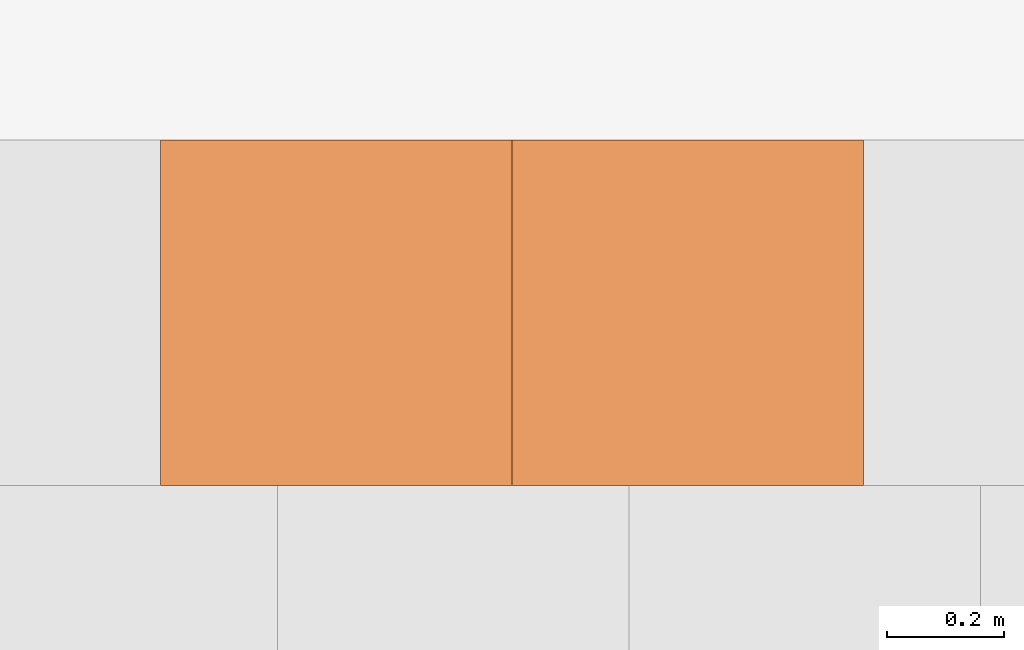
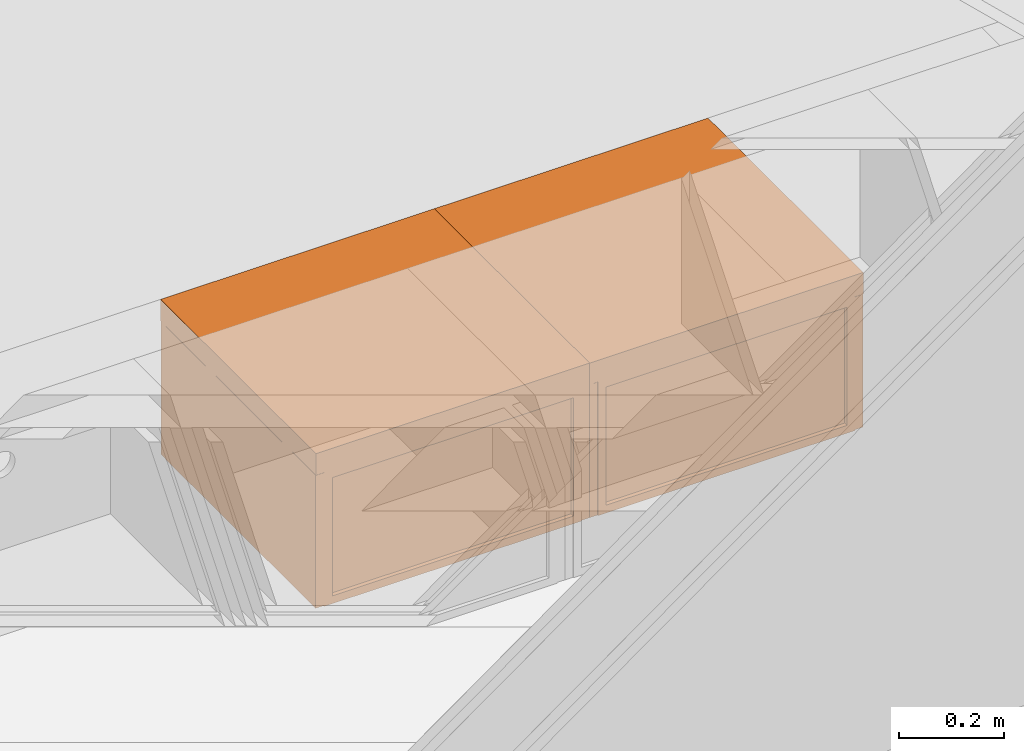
# One storey, part 139 of 165: 2 proxies.
"""IFC2X3 building model written with IfcOpenShell, lengths in millimetres."""

from ifc_helpers import new_model, entity, si_unit, converted_unit, derived_unit, money_unit, direction, frame, origin_with_axes, place, context, subcontext, project, spatial, faceted_brep, source, transform, mapped, type_object, type_shapes, element, save


model = new_model("IFC2X3")

# Units and contexts
model_context = context("Model", 3, precision=0.01, world=origin_with_axes(), true_north=direction((0.0, 1.0)))
body_context = subcontext(model_context, "Body", "Model", "MODEL_VIEW")
ifc_project = project(units=[si_unit("LENGTHUNIT", "METRE", prefix="MILLI"), si_unit("AREAUNIT", "SQUARE_METRE"), si_unit("VOLUMEUNIT", "CUBIC_METRE"), converted_unit("PLANEANGLEUNIT", "DEGREE", entity("IfcPlaneAngleMeasure", 0.0174532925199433), si_unit("PLANEANGLEUNIT", "RADIAN"), dimensions=[0, 0, 0, 0, 0, 0, 0]), money_unit("EUR"), converted_unit("TIMEUNIT", "Year", entity("IfcTimeMeasure", 31556926.0), si_unit("TIMEUNIT", "SECOND"), dimensions=[0, 0, 1, 0, 0, 0, 0]), si_unit("MASSUNIT", "GRAM", prefix="KILO"), si_unit("THERMODYNAMICTEMPERATUREUNIT", "DEGREE_CELSIUS"), si_unit("LUMINOUSINTENSITYUNIT", "LUMEN"), si_unit("ENERGYUNIT", "JOULE", prefix="MEGA"), derived_unit("THERMALCONDUCTANCEUNIT", [(si_unit("POWERUNIT", "WATT"), 1), (si_unit("LENGTHUNIT", "METRE"), -1), (si_unit("THERMODYNAMICTEMPERATUREUNIT", "KELVIN"), -1)]), derived_unit("SPECIFICHEATCAPACITYUNIT", [(si_unit("ENERGYUNIT", "JOULE"), 1), (si_unit("MASSUNIT", "GRAM", prefix="KILO"), -1), (si_unit("THERMODYNAMICTEMPERATUREUNIT", "KELVIN"), -1)]), derived_unit("MASSDENSITYUNIT", [(si_unit("MASSUNIT", "GRAM", prefix="KILO"), 1), (si_unit("VOLUMEUNIT", "CUBIC_METRE"), -1)])], contexts=[model_context])

# Site, building, storey
site_placement = place(None, origin_with_axes())
site = spatial("IfcSite", under=ifc_project, at=site_placement, Name="Site", CompositionType="ELEMENT")
building_placement = place(site_placement, origin_with_axes())
building = spatial("IfcBuilding", under=site, at=building_placement, Name="Naam gebouw", CompositionType="ELEMENT")
storey_placement = place(building_placement, origin_with_axes())
storey = spatial("IfcBuildingStorey", under=building, at=storey_placement, Name="Begane grond", CompositionType="ELEMENT", Elevation=0.0)

# Proxies
building_element_proxy_type = type_object("IfcBuildingElementProxyType", Name="Onderkast recht 26", PredefinedType="NOTDEFINED")
shared_shape_1 = source(origin_with_axes(), body_context, "Body", "Brep", [
    faceted_brep([(0.0, -590.0, 310.0), (600.0, -590.0, 310.0), (600.0, -590.0, 360.0), (0.0, -590.0, 360.0), (0.0, 0.0, 310.0), (600.0, 0.0, 310.0), (600.0, 0.0, 360.0), (0.0, 0.0, 360.0)], [[[0, 1, 2, 3]], [[0, 4, 5, 1]], [[1, 5, 6, 2]], [[3, 2, 6, 7]], [[4, 0, 3, 7]], [[5, 4, 7, 6]]]),
    faceted_brep([(558.9999999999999, -572.0, 23.0), (40.99999999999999, -572.0, 23.0), (40.99999999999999, -18.00000000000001, 23.0), (558.9999999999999, -18.00000000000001, 23.0), (558.9999999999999, -572.0, 33.0), (40.99999999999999, -572.0, 33.0), (40.99999999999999, -18.00000000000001, 33.0), (558.9999999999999, -18.00000000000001, 33.0)], [[[0, 1, 2, 3]], [[1, 0, 4, 5]], [[2, 1, 5, 6]], [[3, 2, 6, 7]], [[0, 3, 7, 4]], [[5, 4, 7, 6]]]),
    faceted_brep([(61.0, -572.0, 33.0), (40.99999999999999, -572.0, 33.0), (40.99999999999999, -18.00000000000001, 33.0), (61.0, -18.00000000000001, 33.0), (61.0, -572.0, 286.9999999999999), (40.99999999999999, -572.0, 286.9999999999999), (40.99999999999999, -18.00000000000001, 286.9999999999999), (61.0, -18.00000000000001, 286.9999999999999)], [[[0, 1, 2, 3]], [[1, 0, 4, 5]], [[2, 1, 5, 6]], [[3, 2, 6, 7]], [[0, 3, 7, 4]], [[5, 4, 7, 6]]]),
    faceted_brep([(558.9999999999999, -572.0, 33.0), (538.9999999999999, -572.0, 33.0), (538.9999999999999, -18.00000000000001, 33.0), (558.9999999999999, -18.00000000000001, 33.0), (558.9999999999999, -572.0, 286.9999999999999), (538.9999999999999, -572.0, 286.9999999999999), (538.9999999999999, -18.00000000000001, 286.9999999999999), (558.9999999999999, -18.00000000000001, 286.9999999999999)], [[[0, 1, 2, 3]], [[1, 0, 4, 5]], [[2, 1, 5, 6]], [[3, 2, 6, 7]], [[0, 3, 7, 4]], [[5, 4, 7, 6]]]),
    faceted_brep([(538.9999999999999, -33.00000000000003, 33.0), (61.0, -33.00000000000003, 33.0), (61.0, -23.00000000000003, 33.0), (538.9999999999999, -23.00000000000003, 33.0), (538.9999999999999, -33.00000000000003, 286.9999999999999), (61.0, -33.00000000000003, 286.9999999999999), (61.0, -23.00000000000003, 286.9999999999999), (538.9999999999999, -23.00000000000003, 286.9999999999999)], [[[0, 1, 2, 3]], [[1, 0, 4, 5]], [[2, 1, 5, 6]], [[3, 2, 6, 7]], [[0, 3, 7, 4]], [[5, 4, 7, 6]]]),
    faceted_brep([(599.0, -590.0, 1.000000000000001), (599.0, -590.0, 309.0), (1.000000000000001, -590.0, 309.0), (1.000000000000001, -590.0, 1.000000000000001), (328.190778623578, -590.0, 240.26060429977), (329.5442325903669, -590.0, 235.2094453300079), (330.0000000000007, -590.0, 230.0), (329.5442325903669, -590.0, 224.7905546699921), (328.190778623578, -590.0, 219.7393957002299), (325.9807621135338, -590.0, 215.0), (322.9813332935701, -590.0, 210.7163717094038), (319.2836282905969, -590.0, 207.0186667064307), (315.0000000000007, -590.0, 204.0192378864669), (310.2606042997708, -590.0, 201.8092213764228), (305.2094453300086, -590.0, 200.4557674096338), (300.0000000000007, -590.0, 200.0), (294.7905546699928, -590.0, 200.4557674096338), (289.7393957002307, -590.0, 201.8092213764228), (285.0000000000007, -590.0, 204.0192378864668), (280.7163717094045, -590.0, 207.0186667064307), (277.0186667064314, -590.0, 210.7163717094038), (274.0192378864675, -590.0, 215.0), (271.8092213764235, -590.0, 219.7393957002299), (270.4557674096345, -590.0, 224.7905546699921), (270.0000000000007, -590.0, 230.0), (270.4557674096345, -590.0, 235.2094453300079), (271.8092213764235, -590.0, 240.2606042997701), (274.0192378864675, -590.0, 245.0), (277.0186667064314, -590.0, 249.2836282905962), (280.7163717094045, -590.0, 252.9813332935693), (285.0000000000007, -590.0, 255.9807621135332), (289.7393957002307, -590.0, 258.1907786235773), (294.7905546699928, -590.0, 259.5442325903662), (300.0000000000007, -590.0, 260.0), (305.2094453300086, -590.0, 259.5442325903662), (310.2606042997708, -590.0, 258.1907786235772), (315.0000000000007, -590.0, 255.9807621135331), (319.2836282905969, -590.0, 252.9813332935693), (322.9813332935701, -590.0, 249.2836282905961), (325.9807621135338, -590.0, 244.9999999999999), (599.0, -572.0, 309.0), (599.0, -572.0, 1.000000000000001), (1.000000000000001, -572.0, 309.0), (1.000000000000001, -572.0, 1.000000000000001), (328.190778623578, -572.0, 240.26060429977), (329.5442325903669, -572.0, 235.2094453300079), (330.0000000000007, -572.0, 230.0), (329.5442325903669, -572.0, 224.7905546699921), (328.190778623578, -572.0, 219.7393957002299), (325.9807621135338, -572.0, 215.0), (322.9813332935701, -572.0, 210.7163717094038), (319.2836282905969, -572.0, 207.0186667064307), (315.0000000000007, -572.0, 204.0192378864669), (310.2606042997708, -572.0, 201.8092213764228), (305.2094453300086, -572.0, 200.4557674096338), (300.0000000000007, -572.0, 200.0), (294.7905546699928, -572.0, 200.4557674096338), (289.7393957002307, -572.0, 201.8092213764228), (285.0000000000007, -572.0, 204.0192378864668), (280.7163717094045, -572.0, 207.0186667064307), (277.0186667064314, -572.0, 210.7163717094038), (274.0192378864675, -572.0, 215.0), (271.8092213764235, -572.0, 219.7393957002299), (270.4557674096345, -572.0, 224.7905546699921), (270.0000000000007, -572.0, 230.0), (270.4557674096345, -572.0, 235.2094453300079), (271.8092213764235, -572.0, 240.2606042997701), (274.0192378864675, -572.0, 245.0), (277.0186667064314, -572.0, 249.2836282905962), (280.7163717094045, -572.0, 252.9813332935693), (285.0000000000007, -572.0, 255.9807621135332), (289.7393957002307, -572.0, 258.1907786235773), (294.7905546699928, -572.0, 259.5442325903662), (300.0000000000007, -572.0, 260.0), (305.2094453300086, -572.0, 259.5442325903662), (310.2606042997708, -572.0, 258.1907786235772), (315.0000000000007, -572.0, 255.9807621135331), (319.2836282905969, -572.0, 252.9813332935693), (322.9813332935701, -572.0, 249.2836282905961), (325.9807621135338, -572.0, 244.9999999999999)], [[[0, 1, 2, 3], [4, 5, 6, 7, 8, 9, 10, 11, 12, 13, 14, 15, 16, 17, 18, 19, 20, 21, 22, 23, 24, 25, 26, 27, 28, 29, 30, 31, 32, 33, 34, 35, 36, 37, 38, 39]], [[40, 1, 0, 41]], [[42, 2, 1, 40]], [[43, 3, 2, 42]], [[41, 0, 3, 43]], [[44, 45, 5, 4]], [[45, 46, 6, 5]], [[46, 47, 7, 6]], [[47, 48, 8, 7]], [[48, 49, 9, 8]], [[49, 50, 10, 9]], [[50, 51, 11, 10]], [[51, 52, 12, 11]], [[52, 53, 13, 12]], [[53, 54, 14, 13]], [[54, 55, 15, 14]], [[55, 56, 16, 15]], [[56, 57, 17, 16]], [[57, 58, 18, 17]], [[58, 59, 19, 18]], [[59, 60, 20, 19]], [[60, 61, 21, 20]], [[61, 62, 22, 21]], [[62, 63, 23, 22]], [[63, 64, 24, 23]], [[64, 65, 25, 24]], [[65, 66, 26, 25]], [[66, 67, 27, 26]], [[67, 68, 28, 27]], [[68, 69, 29, 28]], [[69, 70, 30, 29]], [[70, 71, 31, 30]], [[71, 72, 32, 31]], [[72, 73, 33, 32]], [[73, 74, 34, 33]], [[74, 75, 35, 34]], [[75, 76, 36, 35]], [[76, 77, 37, 36]], [[77, 78, 38, 37]], [[78, 79, 39, 38]], [[79, 44, 4, 39]], [[42, 40, 41, 43], [48, 47, 46, 45, 44, 79, 78, 77, 76, 75, 74, 73, 72, 71, 70, 69, 68, 67, 66, 65, 64, 63, 62, 61, 60, 59, 58, 57, 56, 55, 54, 53, 52, 51, 50, 49]]]),
    faceted_brep([(18.0, -1.0, 1.0), (18.0, -571.0, 1.0), (0.0, -571.0, 1.000000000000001), (0.0, -1.0, 1.000000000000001), (18.00000000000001, -1.0, 309.0), (18.00000000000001, -571.0, 309.0), (0.0, -571.0, 309.0), (0.0, -1.0, 309.0)], [[[0, 1, 2, 3]], [[0, 4, 5, 1]], [[1, 5, 6, 2]], [[3, 2, 6, 7]], [[4, 0, 3, 7]], [[5, 4, 7, 6]]]),
    faceted_brep([(582.0, -571.0, 1.0), (582.0, -1.000000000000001, 1.0), (600.0, -1.000000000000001, 1.000000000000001), (600.0, -571.0, 1.000000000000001), (582.0, -571.0, 309.0), (582.0, -1.000000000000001, 309.0), (600.0, -1.000000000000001, 309.0), (600.0, -571.0, 309.0)], [[[0, 1, 2, 3]], [[0, 4, 5, 1]], [[1, 5, 6, 2]], [[3, 2, 6, 7]], [[4, 0, 3, 7]], [[5, 4, 7, 6]]]),
    faceted_brep([(36.0, -572.0, 0.0), (564.0, -572.0, 0.0), (564.0, -572.0, 18.0), (36.0, -572.0, 18.0), (36.0, 0.0, 0.0), (564.0, 0.0, 0.0), (564.0, 0.0, 18.0), (36.0, 0.0, 18.0)], [[[0, 1, 2, 3]], [[0, 4, 5, 1]], [[1, 5, 6, 2]], [[3, 2, 6, 7]], [[4, 0, 3, 7]], [[5, 4, 7, 6]]]),
    faceted_brep([(36.0, -572.0, 292.0), (36.0, -512.0, 292.0), (564.0, -512.0, 292.0), (564.0, -572.0, 292.0), (36.0, -572.0, 310.0), (36.0, -512.0, 310.0), (564.0, -512.0, 310.0), (564.0, -572.0, 310.0)], [[[0, 1, 2, 3]], [[0, 4, 5, 1]], [[1, 5, 6, 2]], [[3, 2, 6, 7]], [[4, 0, 3, 7]], [[5, 4, 7, 6]]]),
    faceted_brep([(564.0, 0.0, 292.0), (564.0, -60.0, 292.0), (36.0, -60.0, 292.0), (36.0, 0.0, 292.0), (564.0, 0.0, 310.0), (564.0, -60.0, 310.0), (36.0, -60.0, 310.0), (36.0, 0.0, 310.0)], [[[0, 1, 2, 3]], [[0, 4, 5, 1]], [[1, 5, 6, 2]], [[3, 2, 6, 7]], [[4, 0, 3, 7]], [[5, 4, 7, 6]]]),
    faceted_brep([(18.0, 0.0, 0.0), (18.0, -572.0, 0.0), (18.0, -572.0, 310.0), (18.0, 0.0, 310.0), (36.0, 0.0, 0.0), (36.0, -572.0, 0.0), (36.0, -572.0, 310.0), (36.0, 0.0, 310.0)], [[[0, 1, 2, 3]], [[0, 4, 5, 1]], [[1, 5, 6, 2]], [[3, 2, 6, 7]], [[4, 0, 3, 7]], [[5, 4, 7, 6]]]),
    faceted_brep([(582.0, -572.0, 0.0), (582.0, 0.0, 0.0), (582.0, 0.0, 310.0), (582.0, -572.0, 310.0), (564.0, -572.0, 0.0), (564.0, 0.0, 0.0), (564.0, 0.0, 310.0), (564.0, -572.0, 310.0)], [[[0, 1, 2, 3]], [[0, 4, 5, 1]], [[1, 5, 6, 2]], [[3, 2, 6, 7]], [[4, 0, 3, 7]], [[5, 4, 7, 6]]]),
    faceted_brep([(564.0, -9.0, 18.0), (36.00000000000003, -9.0, 18.0), (36.00000000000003, -9.0, 292.0000000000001), (564.0, -9.0, 292.0000000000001), (564.0, -18.0, 18.0), (36.00000000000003, -18.0, 18.0), (36.00000000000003, -18.0, 292.0000000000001), (564.0, -18.0, 292.0000000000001)], [[[0, 1, 2, 3]], [[0, 4, 5, 1]], [[1, 5, 6, 2]], [[3, 2, 6, 7]], [[4, 0, 3, 7]], [[5, 4, 7, 6]]]),
])
proxy_1_placement = place(storey_placement, frame((16400.00001687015, 6430.000292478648, 0.0), z_axis=(0.0, 0.0, 1.0), x_axis=(-1.0, 0.0, 0.0)))
element("IfcBuildingElementProxy", 1, at=proxy_1_placement, inside=storey, type_object=building_element_proxy_type, Name="_Leeg", context=body_context, shape_type="MappedRepresentation", body=[
    mapped(shared_shape_1, transform((0.0, 0.0, 0.0))),
])
shared_shape_2 = source(origin_with_axes(), body_context, "Body", "Brep", [
    faceted_brep([(0.0, -590.0, 310.0), (0.0, -590.0, 360.0), (-600.0, -590.0, 360.0), (-600.0, -590.0, 310.0), (0.0, 0.0, 310.0), (0.0, 0.0, 360.0), (-600.0, 0.0, 360.0), (-600.0, 0.0, 310.0)], [[[0, 1, 2, 3]], [[4, 5, 1, 0]], [[1, 5, 6, 2]], [[3, 2, 6, 7]], [[0, 3, 7, 4]], [[7, 6, 5, 4]]]),
    faceted_brep([(-558.9999999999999, -572.0, 23.0), (-558.9999999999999, -18.00000000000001, 23.0), (-40.99999999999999, -18.00000000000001, 23.0), (-40.99999999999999, -572.0, 23.0), (-558.9999999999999, -572.0, 33.0), (-558.9999999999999, -18.00000000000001, 33.0), (-40.99999999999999, -18.00000000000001, 33.0), (-40.99999999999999, -572.0, 33.0)], [[[0, 1, 2, 3]], [[0, 4, 5, 1]], [[1, 5, 6, 2]], [[2, 6, 7, 3]], [[3, 7, 4, 0]], [[7, 6, 5, 4]]]),
    faceted_brep([(-61.0, -572.0, 33.0), (-61.0, -18.00000000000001, 33.0), (-40.99999999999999, -18.00000000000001, 33.0), (-40.99999999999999, -572.0, 33.0), (-61.0, -572.0, 286.9999999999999), (-61.0, -18.00000000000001, 286.9999999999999), (-40.99999999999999, -18.00000000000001, 286.9999999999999), (-40.99999999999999, -572.0, 286.9999999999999)], [[[0, 1, 2, 3]], [[0, 4, 5, 1]], [[1, 5, 6, 2]], [[2, 6, 7, 3]], [[3, 7, 4, 0]], [[7, 6, 5, 4]]]),
    faceted_brep([(-558.9999999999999, -572.0, 33.0), (-558.9999999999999, -18.00000000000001, 33.0), (-538.9999999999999, -18.00000000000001, 33.0), (-538.9999999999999, -572.0, 33.0), (-558.9999999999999, -572.0, 286.9999999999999), (-558.9999999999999, -18.00000000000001, 286.9999999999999), (-538.9999999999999, -18.00000000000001, 286.9999999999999), (-538.9999999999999, -572.0, 286.9999999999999)], [[[0, 1, 2, 3]], [[0, 4, 5, 1]], [[1, 5, 6, 2]], [[2, 6, 7, 3]], [[3, 7, 4, 0]], [[7, 6, 5, 4]]]),
    faceted_brep([(-538.9999999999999, -33.00000000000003, 33.0), (-538.9999999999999, -23.00000000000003, 33.0), (-61.0, -23.00000000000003, 33.0), (-61.0, -33.00000000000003, 33.0), (-538.9999999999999, -33.00000000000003, 286.9999999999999), (-538.9999999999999, -23.00000000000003, 286.9999999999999), (-61.0, -23.00000000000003, 286.9999999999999), (-61.0, -33.00000000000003, 286.9999999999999)], [[[0, 1, 2, 3]], [[0, 4, 5, 1]], [[1, 5, 6, 2]], [[2, 6, 7, 3]], [[3, 7, 4, 0]], [[7, 6, 5, 4]]]),
    faceted_brep([(-599.0, -590.0, 1.000000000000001), (-1.000000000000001, -590.0, 1.000000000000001), (-1.000000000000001, -590.0, 309.0), (-599.0, -590.0, 309.0), (-328.190778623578, -590.0, 240.26060429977), (-325.9807621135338, -590.0, 244.9999999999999), (-322.9813332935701, -590.0, 249.2836282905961), (-319.2836282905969, -590.0, 252.9813332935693), (-315.0000000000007, -590.0, 255.9807621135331), (-310.2606042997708, -590.0, 258.1907786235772), (-305.2094453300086, -590.0, 259.5442325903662), (-300.0000000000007, -590.0, 260.0), (-294.7905546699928, -590.0, 259.5442325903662), (-289.7393957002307, -590.0, 258.1907786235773), (-285.0000000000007, -590.0, 255.9807621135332), (-280.7163717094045, -590.0, 252.9813332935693), (-277.0186667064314, -590.0, 249.2836282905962), (-274.0192378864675, -590.0, 245.0), (-271.8092213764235, -590.0, 240.2606042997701), (-270.4557674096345, -590.0, 235.2094453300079), (-270.0000000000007, -590.0, 230.0), (-270.4557674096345, -590.0, 224.7905546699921), (-271.8092213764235, -590.0, 219.7393957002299), (-274.0192378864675, -590.0, 215.0), (-277.0186667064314, -590.0, 210.7163717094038), (-280.7163717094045, -590.0, 207.0186667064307), (-285.0000000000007, -590.0, 204.0192378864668), (-289.7393957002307, -590.0, 201.8092213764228), (-294.7905546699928, -590.0, 200.4557674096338), (-300.0000000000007, -590.0, 200.0), (-305.2094453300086, -590.0, 200.4557674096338), (-310.2606042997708, -590.0, 201.8092213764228), (-315.0000000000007, -590.0, 204.0192378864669), (-319.2836282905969, -590.0, 207.0186667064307), (-322.9813332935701, -590.0, 210.7163717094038), (-325.9807621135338, -590.0, 215.0), (-328.190778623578, -590.0, 219.7393957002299), (-329.5442325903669, -590.0, 224.7905546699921), (-330.0000000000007, -590.0, 230.0), (-329.5442325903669, -590.0, 235.2094453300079), (-599.0, -572.0, 1.000000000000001), (-1.000000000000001, -572.0, 1.000000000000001), (-1.000000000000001, -572.0, 309.0), (-599.0, -572.0, 309.0), (-325.9807621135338, -572.0, 244.9999999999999), (-328.190778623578, -572.0, 240.26060429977), (-322.9813332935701, -572.0, 249.2836282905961), (-319.2836282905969, -572.0, 252.9813332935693), (-315.0000000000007, -572.0, 255.9807621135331), (-310.2606042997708, -572.0, 258.1907786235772), (-305.2094453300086, -572.0, 259.5442325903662), (-300.0000000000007, -572.0, 260.0), (-294.7905546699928, -572.0, 259.5442325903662), (-289.7393957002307, -572.0, 258.1907786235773), (-285.0000000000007, -572.0, 255.9807621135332), (-280.7163717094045, -572.0, 252.9813332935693), (-277.0186667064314, -572.0, 249.2836282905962), (-274.0192378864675, -572.0, 245.0), (-271.8092213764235, -572.0, 240.2606042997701), (-270.4557674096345, -572.0, 235.2094453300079), (-270.0000000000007, -572.0, 230.0), (-270.4557674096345, -572.0, 224.7905546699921), (-271.8092213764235, -572.0, 219.7393957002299), (-274.0192378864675, -572.0, 215.0), (-277.0186667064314, -572.0, 210.7163717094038), (-280.7163717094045, -572.0, 207.0186667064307), (-285.0000000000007, -572.0, 204.0192378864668), (-289.7393957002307, -572.0, 201.8092213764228), (-294.7905546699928, -572.0, 200.4557674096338), (-300.0000000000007, -572.0, 200.0), (-305.2094453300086, -572.0, 200.4557674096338), (-310.2606042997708, -572.0, 201.8092213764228), (-315.0000000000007, -572.0, 204.0192378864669), (-319.2836282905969, -572.0, 207.0186667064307), (-322.9813332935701, -572.0, 210.7163717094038), (-325.9807621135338, -572.0, 215.0), (-328.190778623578, -572.0, 219.7393957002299), (-329.5442325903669, -572.0, 224.7905546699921), (-330.0000000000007, -572.0, 230.0), (-329.5442325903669, -572.0, 235.2094453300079)], [[[0, 1, 2, 3], [4, 5, 6, 7, 8, 9, 10, 11, 12, 13, 14, 15, 16, 17, 18, 19, 20, 21, 22, 23, 24, 25, 26, 27, 28, 29, 30, 31, 32, 33, 34, 35, 36, 37, 38, 39]], [[40, 41, 1, 0]], [[41, 42, 2, 1]], [[42, 43, 3, 2]], [[43, 40, 0, 3]], [[44, 5, 4, 45]], [[46, 6, 5, 44]], [[47, 7, 6, 46]], [[48, 8, 7, 47]], [[49, 9, 8, 48]], [[50, 10, 9, 49]], [[51, 11, 10, 50]], [[52, 12, 11, 51]], [[53, 13, 12, 52]], [[54, 14, 13, 53]], [[55, 15, 14, 54]], [[56, 16, 15, 55]], [[57, 17, 16, 56]], [[58, 18, 17, 57]], [[59, 19, 18, 58]], [[60, 20, 19, 59]], [[61, 21, 20, 60]], [[62, 22, 21, 61]], [[63, 23, 22, 62]], [[64, 24, 23, 63]], [[65, 25, 24, 64]], [[66, 26, 25, 65]], [[67, 27, 26, 66]], [[68, 28, 27, 67]], [[69, 29, 28, 68]], [[70, 30, 29, 69]], [[71, 31, 30, 70]], [[72, 32, 31, 71]], [[73, 33, 32, 72]], [[74, 34, 33, 73]], [[75, 35, 34, 74]], [[76, 36, 35, 75]], [[77, 37, 36, 76]], [[78, 38, 37, 77]], [[79, 39, 38, 78]], [[45, 4, 39, 79]], [[42, 41, 40, 43], [76, 75, 74, 73, 72, 71, 70, 69, 68, 67, 66, 65, 64, 63, 62, 61, 60, 59, 58, 57, 56, 55, 54, 53, 52, 51, 50, 49, 48, 47, 46, 44, 45, 79, 78, 77]]]),
    faceted_brep([(-18.0, -1.0, 1.0), (0.0, -1.0, 1.000000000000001), (0.0, -571.0, 1.000000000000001), (-18.0, -571.0, 1.0), (-18.00000000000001, -1.0, 309.0), (0.0, -1.0, 309.0), (0.0, -571.0, 309.0), (-18.00000000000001, -571.0, 309.0)], [[[0, 1, 2, 3]], [[4, 5, 1, 0]], [[1, 5, 6, 2]], [[3, 2, 6, 7]], [[0, 3, 7, 4]], [[7, 6, 5, 4]]]),
    faceted_brep([(-582.0, -571.0, 1.0), (-600.0, -571.0, 1.000000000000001), (-600.0, -1.000000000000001, 1.000000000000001), (-582.0, -1.000000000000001, 1.0), (-582.0, -571.0, 309.0), (-600.0, -571.0, 309.0), (-600.0, -1.000000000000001, 309.0), (-582.0, -1.000000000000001, 309.0)], [[[0, 1, 2, 3]], [[4, 5, 1, 0]], [[1, 5, 6, 2]], [[3, 2, 6, 7]], [[0, 3, 7, 4]], [[7, 6, 5, 4]]]),
    faceted_brep([(-36.0, -572.0, 0.0), (-36.0, -572.0, 18.0), (-564.0, -572.0, 18.0), (-564.0, -572.0, 0.0), (-36.0, 0.0, 0.0), (-36.0, 0.0, 18.0), (-564.0, 0.0, 18.0), (-564.0, 0.0, 0.0)], [[[0, 1, 2, 3]], [[4, 5, 1, 0]], [[1, 5, 6, 2]], [[3, 2, 6, 7]], [[0, 3, 7, 4]], [[7, 6, 5, 4]]]),
    faceted_brep([(-36.0, -572.0, 292.0), (-564.0, -572.0, 292.0), (-564.0, -512.0, 292.0), (-36.0, -512.0, 292.0), (-36.0, -572.0, 310.0), (-564.0, -572.0, 310.0), (-564.0, -512.0, 310.0), (-36.0, -512.0, 310.0)], [[[0, 1, 2, 3]], [[4, 5, 1, 0]], [[1, 5, 6, 2]], [[3, 2, 6, 7]], [[0, 3, 7, 4]], [[7, 6, 5, 4]]]),
    faceted_brep([(-564.0, 0.0, 292.0), (-36.0, 0.0, 292.0), (-36.0, -60.0, 292.0), (-564.0, -60.0, 292.0), (-564.0, 0.0, 310.0), (-36.0, 0.0, 310.0), (-36.0, -60.0, 310.0), (-564.0, -60.0, 310.0)], [[[0, 1, 2, 3]], [[4, 5, 1, 0]], [[1, 5, 6, 2]], [[3, 2, 6, 7]], [[0, 3, 7, 4]], [[7, 6, 5, 4]]]),
    faceted_brep([(-18.0, 0.0, 0.0), (-18.0, 0.0, 310.0), (-18.0, -572.0, 310.0), (-18.0, -572.0, 0.0), (-36.0, 0.0, 0.0), (-36.0, 0.0, 310.0), (-36.0, -572.0, 310.0), (-36.0, -572.0, 0.0)], [[[0, 1, 2, 3]], [[4, 5, 1, 0]], [[1, 5, 6, 2]], [[3, 2, 6, 7]], [[0, 3, 7, 4]], [[7, 6, 5, 4]]]),
    faceted_brep([(-582.0, -572.0, 0.0), (-582.0, -572.0, 310.0), (-582.0, 0.0, 310.0), (-582.0, 0.0, 0.0), (-564.0, -572.0, 0.0), (-564.0, -572.0, 310.0), (-564.0, 0.0, 310.0), (-564.0, 0.0, 0.0)], [[[0, 1, 2, 3]], [[4, 5, 1, 0]], [[1, 5, 6, 2]], [[3, 2, 6, 7]], [[0, 3, 7, 4]], [[7, 6, 5, 4]]]),
    faceted_brep([(-564.0, -9.0, 18.0), (-564.0, -9.0, 292.0000000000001), (-36.00000000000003, -9.0, 292.0000000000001), (-36.00000000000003, -9.0, 18.0), (-564.0, -18.0, 18.0), (-564.0, -18.0, 292.0000000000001), (-36.00000000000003, -18.0, 292.0000000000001), (-36.00000000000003, -18.0, 18.0)], [[[0, 1, 2, 3]], [[4, 5, 1, 0]], [[1, 5, 6, 2]], [[3, 2, 6, 7]], [[0, 3, 7, 4]], [[7, 6, 5, 4]]]),
])
type_shapes(building_element_proxy_type, [shared_shape_1, shared_shape_2])
proxy_2_placement = place(storey_placement, frame((15200.00001687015, 6430.000292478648, 0.0), z_axis=(0.0, 0.0, 1.0), x_axis=(-1.0, 0.0, 0.0)))
element("IfcBuildingElementProxy", 2, at=proxy_2_placement, inside=storey, type_object=building_element_proxy_type, Name="_Leeg", context=body_context, shape_type="MappedRepresentation", body=[
    mapped(shared_shape_2, transform((0.0, 0.0, 0.0))),
])

save(model, "model.ifc")
